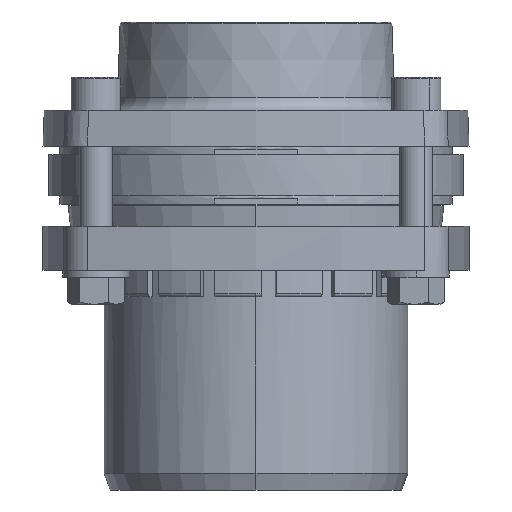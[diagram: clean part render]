
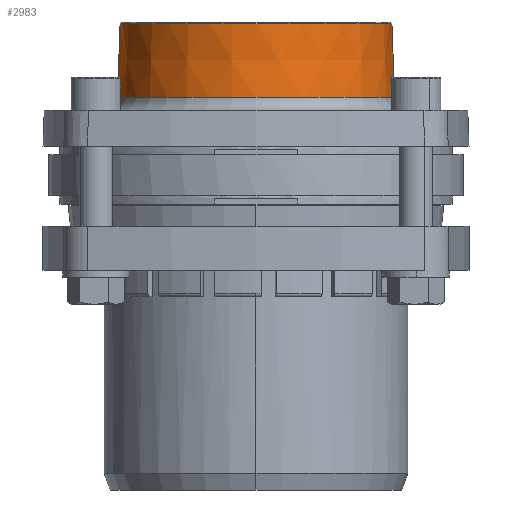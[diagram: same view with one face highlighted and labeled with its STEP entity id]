
A CAD part, front view. The second image highlights one B-rep face of the part: STEP entity #2983.
In plain terms, the highlighted conical face has half-angle 2 degrees and reference radius 50.325 mm.
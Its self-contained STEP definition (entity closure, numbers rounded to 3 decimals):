
#40 = VECTOR ( 'NONE', #10688, 1000. ) ;
#1325 = VERTEX_POINT ( 'NONE', #9179 ) ;
#1329 = VERTEX_POINT ( 'NONE', #9183 ) ;
#1338 = VERTEX_POINT ( 'NONE', #9192 ) ;
#1376 = VERTEX_POINT ( 'NONE', #9230 ) ;
#2104 = EDGE_CURVE ( 'NONE', #1325, #1329, #10680, .T. ) ;
#2168 = EDGE_CURVE ( 'NONE', #1325, #1338, #11151, .T. ) ;
#2169 = EDGE_CURVE ( 'NONE', #1376, #1329, #11146, .T. ) ;
#2170 = EDGE_CURVE ( 'NONE', #1338, #1376, #10879, .T. ) ;
#2642 = ORIENTED_EDGE ( 'NONE', *, *, #2168, .T. ) ;
#2643 = ORIENTED_EDGE ( 'NONE', *, *, #2170, .T. ) ;
#2644 = ORIENTED_EDGE ( 'NONE', *, *, #2169, .T. ) ;
#2645 = ORIENTED_EDGE ( 'NONE', *, *, #2104, .F. ) ;
#2983 = ADVANCED_FACE ( 'NONE', ( #12959 ), #12673, .T. ) ;
#6603 = EDGE_LOOP ( 'NONE', ( #2642, #2643, #2644, #2645 ) ) ;
#9179 = CARTESIAN_POINT ( 'NONE',  ( 70.815, -4.03, 54.107 ) ) ;
#9183 = CARTESIAN_POINT ( 'NONE',  ( 71.744, -4.03, 27.517 ) ) ;
#9192 = CARTESIAN_POINT ( 'NONE',  ( -27.641, -4.03, 54.107 ) ) ;
#9230 = CARTESIAN_POINT ( 'NONE',  ( -28.569, -4.03, 27.517 ) ) ;
#10680 = LINE ( 'NONE', #10687, #40 ) ;
#10687 = CARTESIAN_POINT ( 'NONE',  ( 71.912, -4.03, 22.692 ) ) ;
#10688 = DIRECTION ( 'NONE',  ( 0.035, 0., -0.999 ) ) ;
#10878 = CARTESIAN_POINT ( 'NONE',  ( -28.738, -4.03, 22.692 ) ) ;
#10879 = LINE ( 'NONE', #10878, #11154 ) ;
#10880 = CARTESIAN_POINT ( 'NONE',  ( 21.587, -4.03, 54.107 ) ) ;
#10881 = DIRECTION ( 'NONE',  ( 0., 0., -1. ) ) ;
#10882 = DIRECTION ( 'NONE',  ( -1., 0., 0. ) ) ;
#10884 = CARTESIAN_POINT ( 'NONE',  ( 21.587, -4.03, 27.517 ) ) ;
#10885 = DIRECTION ( 'NONE',  ( 0., 0., 1. ) ) ;
#10886 = DIRECTION ( 'NONE',  ( 1., 0., 0. ) ) ;
#10887 = DIRECTION ( 'NONE',  ( -0.035, 0., -0.999 ) ) ;
#11146 = CIRCLE ( 'NONE', #11155, 50.156 ) ;
#11151 = CIRCLE ( 'NONE', #11153, 49.228 ) ;
#11153 = AXIS2_PLACEMENT_3D ( 'NONE', #10880, #10881, #10882 ) ;
#11154 = VECTOR ( 'NONE', #10887, 1000. ) ;
#11155 = AXIS2_PLACEMENT_3D ( 'NONE', #10884, #10885, #10886 ) ;
#12673 = CONICAL_SURFACE ( 'NONE', #12674, 50.325, 0.035 ) ;
#12674 = AXIS2_PLACEMENT_3D ( 'NONE', #12962, #12960, #12957 ) ;
#12957 = DIRECTION ( 'NONE',  ( 1., 0., 0. ) ) ;
#12959 = FACE_OUTER_BOUND ( 'NONE', #6603, .T. ) ;
#12960 = DIRECTION ( 'NONE',  ( 0., 0., -1. ) ) ;
#12962 = CARTESIAN_POINT ( 'NONE',  ( 21.587, -4.03, 22.692 ) ) ;
